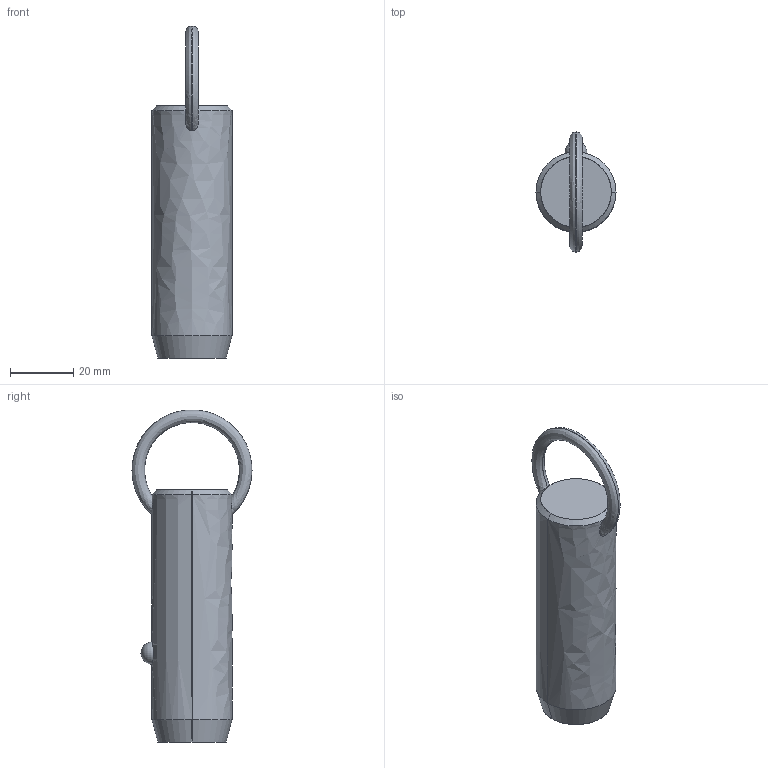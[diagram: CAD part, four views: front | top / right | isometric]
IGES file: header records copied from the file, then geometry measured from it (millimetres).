
Start section: SolidWorks IGES file using analytic representation for surfaces
Global section: file name: C:\Users\liam_\OneDrive\Documents\WORK\Work for WixRoyd\Job Files\J-00019 - Matt Davis CAD Checking\04. CAD Drawings\automotion20190605\P1250.2_v2\P1250.2_v2_20190729_IGES\P1250.100-140.igs; native system: SolidWorks 2017; preprocessor: SolidWorks 2017; author: liam_; date: 190730.173331; units: millimetre
Bounding box: 25.4 x 38.1 x 105.38 mm (x, y, z)
Surface area: 8157 mm2 (no closed solid volume)
Topology: 0 solids, 0 shells, 12 faces, 298 edges, 296 vertices
Faces by surface type: revolution 8, bspline 4
